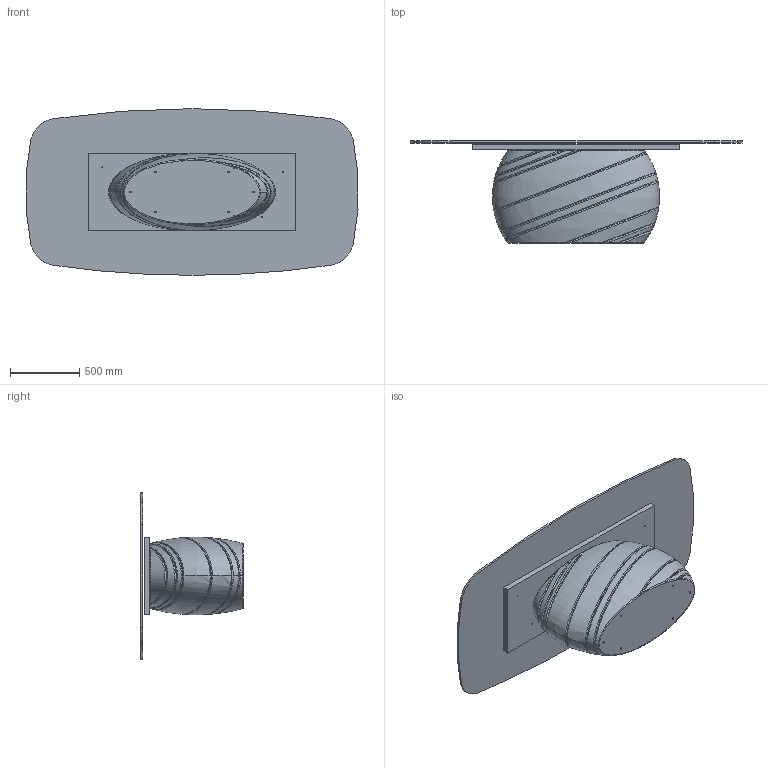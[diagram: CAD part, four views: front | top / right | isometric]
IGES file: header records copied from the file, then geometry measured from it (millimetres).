
Start section: SolidWorks IGES file using analytic representation for surfaces
Global section: file name: Y:\eforma\TECNICO\SOLIDWORKS\E-FORMA\1-TAVOLI\GIOVE\08 modelli 3D web\cri 240x120 sag.IGS; native system: SolidWorks 2022; preprocessor: SolidWorks 2022; author: eforma.tech; date: 250526.160258; units: millimetre
Bounding box: 2391.62 x 737 x 1200 mm (x, y, z)
Volume: 389902800.4 mm3; surface area: 10017530.9 mm2
Topology: 3 solids, 3 shells, 161 faces, 396 edges, 256 vertices
Faces by surface type: revolution 77, bspline 53, plane 31
